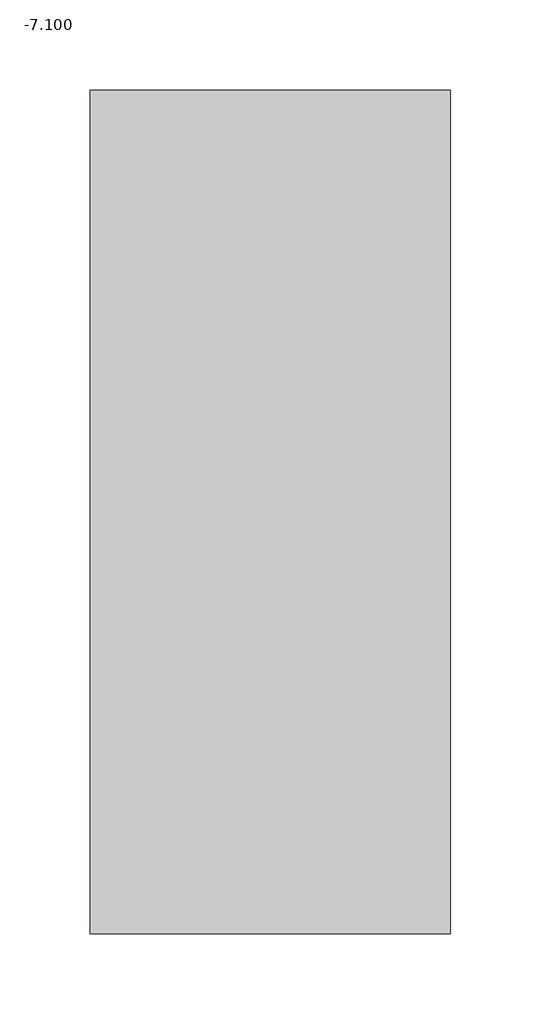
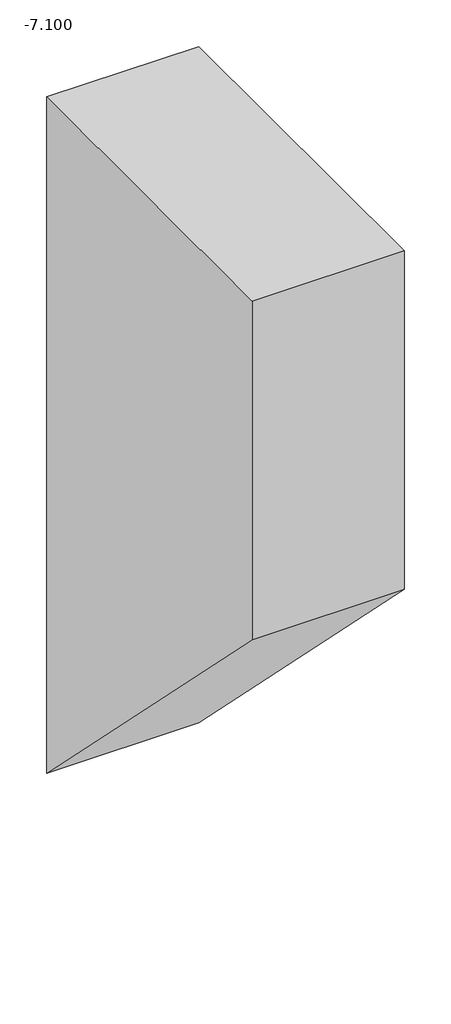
# One storey, incomplete: 1 beam.
"""IFC4 building model written with IfcOpenShell, lengths in millimetres."""

from ifc_helpers import new_model, si_unit, origin, place, context, project, spatial, transform, mapped, element, save
from components import beam_40fa813a

model = new_model("IFC4")

# Units and contexts
model_context = context("Model", 3, world=origin())
ifc_project = project(units=[si_unit("LENGTHUNIT", "METRE", prefix="MILLI")], contexts=[model_context])

# Site, building, storey
site = spatial("IfcSite", under=ifc_project)
building = spatial("IfcBuilding", under=site)
storey = spatial("IfcBuildingStorey", under=building, Name="-7.100", Elevation=-1076.1995019)

# Beam
placement = place(None, origin())
beam_shape = beam_40fa813a(model_context)
element("IfcBeam", 1, ObjectType="appoggiTravi5 : appoggiTravi", at=placement, inside=storey, context=model_context, shape_type="MappedRepresentation", body=[
    mapped(beam_shape, transform((-14520.0078408, 0.0, 48.544422), x_axis=(1.0, 0.0, 0.0), y_axis=(0.0, 1.0, 0.0), z_axis=(0.0, 0.0, 1.0))),
])

save(model, "model.ifc")
